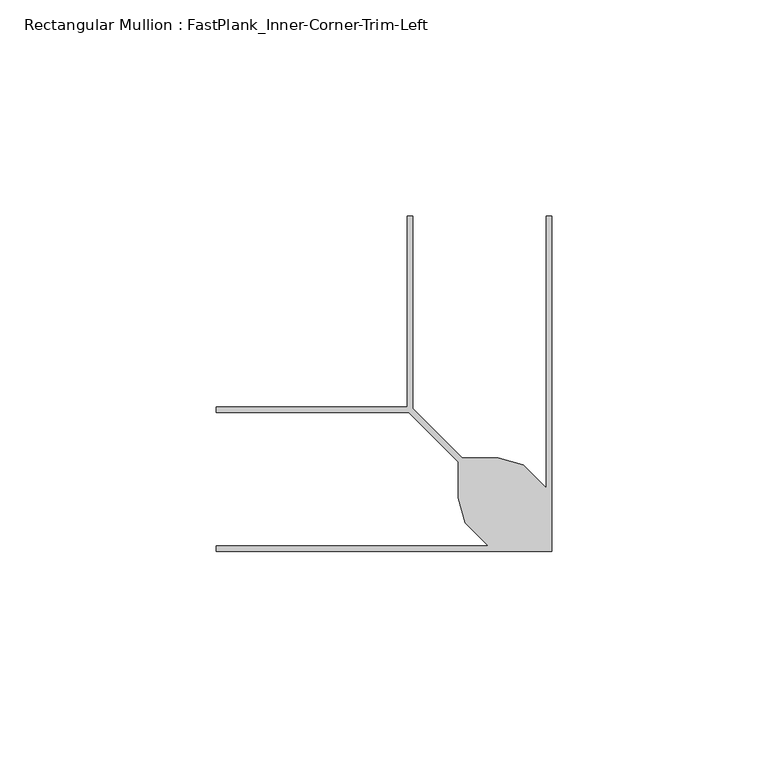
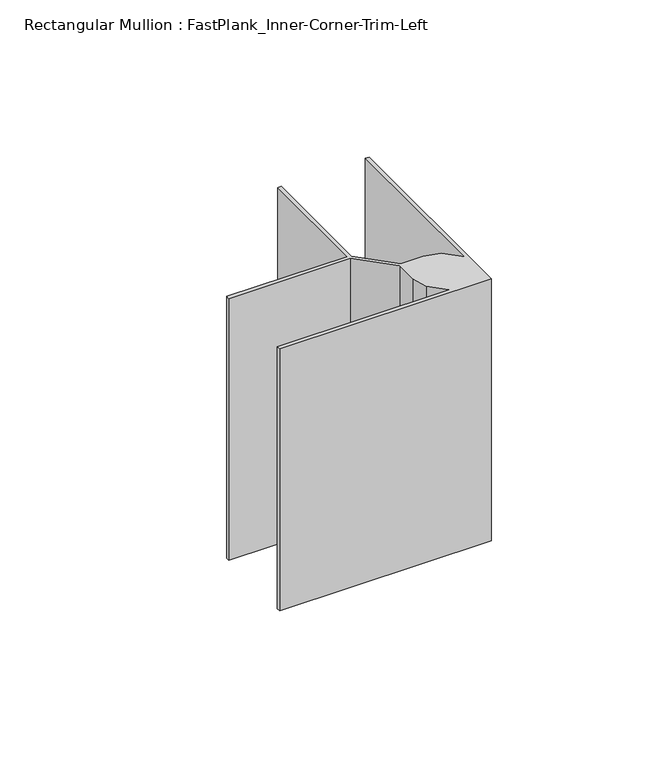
"""IFC4 building model written with IfcOpenShell, lengths in millimetres: member geometry, Rectangular Mullion : FastPlank_Inner-Corner-Trim-Left."""

from ifc_helpers import new_model, si_unit, frame, origin, place, context, project, spatial, polyline, outline, extrude, source, transform, mapped, element, save


def rectangular_mullion_fastplank_inner_corner_trim_left_b16e904a(model_context):
    return source(origin(), model_context, "Body", "SweptSolid", [
        extrude(outline(polyline([(0.0, 65.8344405), (0.0, -11.8654041), (-77.6998446, -11.8654041), (-77.6998446, -10.5654067), (-14.7093055, -10.5654067), (-20.0837776, -5.1909347), (-21.6227418, 0.5525579), (-21.6227418, 8.8381007), (-33.1191726, 20.3345315), (-77.6998446, 20.3345315), (-77.6998446, 21.6345289), (-33.499933, 21.6345289), (-33.499933, 65.8344405), (-32.1999356, 65.8344405), (-32.1999356, 21.2537685), (-20.7035048, 9.7573377), (-12.417962, 9.7573377), (-6.6744694, 8.2183735), (-1.2999974, 2.8439015), (-1.2999974, 65.8344405), (0.0, 65.8344405)])), frame((0.0, 0.0, -101.6), z_axis=(0.0, 0.0, 1.0), x_axis=(1.0, 0.0, 0.0)), (0.0, 0.0, 1.0), 101.6),
    ])


if __name__ == "__main__":
    model = new_model("IFC4")
    model_context = context("Model", 3, world=origin())
    ifc_project = project(units=[si_unit("LENGTHUNIT", "METRE", prefix="MILLI")], contexts=[model_context])
    site = spatial("IfcSite", under=ifc_project)
    building = spatial("IfcBuilding", under=site)
    placement = place(None, origin())
    rectangular_mullion_fastplank_inner_corner_trim_left_shape = rectangular_mullion_fastplank_inner_corner_trim_left_b16e904a(model_context)
    element("IfcMember", 1, ObjectType="Rectangular Mullion : FastPlank_Inner-Corner-Trim-Left", at=placement, inside=building, context=model_context, shape_type="MappedRepresentation", body=[
        mapped(rectangular_mullion_fastplank_inner_corner_trim_left_shape, transform((0.0, 0.0, 0.0), x_axis=(1.0, 0.0, 0.0), y_axis=(0.0, 1.0, 0.0), z_axis=(0.0, 0.0, 1.0))),
    ])
    save(model, "model.ifc")
